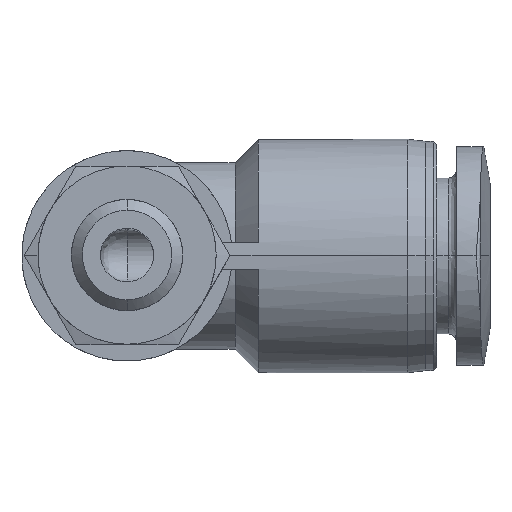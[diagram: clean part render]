
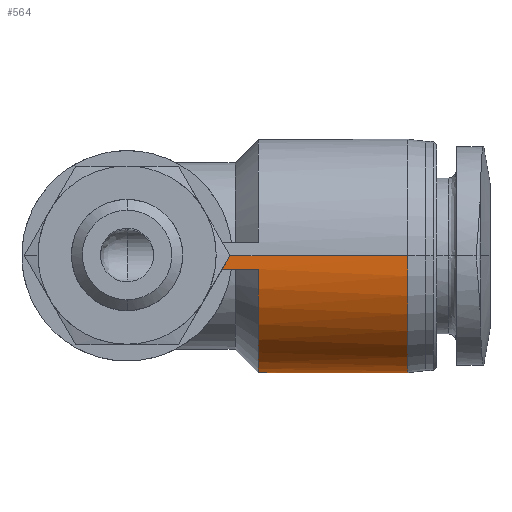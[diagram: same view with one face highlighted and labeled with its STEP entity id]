
A CAD part, top view. The second image highlights one B-rep face of the part: STEP entity #564.
In plain terms, the highlighted cylindrical face has radius 5.25 mm (diameter 10.5 mm), a partial arc.
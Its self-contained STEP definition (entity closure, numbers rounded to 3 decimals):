
#106 = CARTESIAN_POINT ( 'NONE',  ( 0.364, -0.182, -5.25 ) ) ;
#127 = CARTESIAN_POINT ( 'NONE',  ( 4.619, 0., 5.25 ) ) ;
#204 = DIRECTION ( 'NONE',  ( 0., 0., 1. ) ) ;
#227 = DIRECTION ( 'NONE',  ( 0., 0., 1. ) ) ;
#243 = VERTEX_POINT ( 'NONE', #127 ) ;
#261 = EDGE_LOOP ( 'NONE', ( #2526, #934, #1851, #2740, #1840, #923, #2716, #318, #1660 ) ) ;
#318 = ORIENTED_EDGE ( 'NONE', *, *, #757, .T. ) ;
#352 = CARTESIAN_POINT ( 'NONE',  ( 4.388, -0.401, 5.239 ) ) ;
#357 = DIRECTION ( 'NONE',  ( 1., 0., 0. ) ) ;
#384 = AXIS2_PLACEMENT_3D ( 'NONE', #2491, #883, #1954 ) ;
#493 = VECTOR ( 'NONE', #3073, 1000. ) ;
#523 = DIRECTION ( 'NONE',  ( 0., 0., 1. ) ) ;
#549 = VECTOR ( 'NONE', #357, 1000. ) ;
#564 = ADVANCED_FACE ( 'NONE', ( #2453 ), #1641, .T. ) ;
#599 = CARTESIAN_POINT ( 'NONE',  ( 0.181, -0.364, -5.24 ) ) ;
#623 = CIRCLE ( 'NONE', #384, 5.25 ) ;
#697 = CARTESIAN_POINT ( 'NONE',  ( 16.3, 0., 5.25 ) ) ;
#757 = EDGE_CURVE ( 'NONE', #2125, #1880, #623, .T. ) ;
#760 = B_SPLINE_CURVE_WITH_KNOTS ( 'NONE', 3,
 ( #2777, #890, #352, #1718 ),
 .UNSPECIFIED., .F., .F.,
 ( 4, 4 ),
 ( 0., 1. ),
 .UNSPECIFIED. ) ;
#766 = CARTESIAN_POINT ( 'NONE',  ( 0.546, 0., -5.25 ) ) ;
#883 = DIRECTION ( 'NONE',  ( 1., 0., 0. ) ) ;
#890 = CARTESIAN_POINT ( 'NONE',  ( 4.503, -0.2, 5.25 ) ) ;
#892 = CIRCLE ( 'NONE', #2868, 5.25 ) ;
#908 = EDGE_CURVE ( 'NONE', #1885, #2065, #1134, .T. ) ;
#923 = ORIENTED_EDGE ( 'NONE', *, *, #2902, .T. ) ;
#934 = ORIENTED_EDGE ( 'NONE', *, *, #908, .T. ) ;
#981 = CARTESIAN_POINT ( 'NONE',  ( 12.6, 0., -5.25 ) ) ;
#1134 = CIRCLE ( 'NONE', #2484, 5.25 ) ;
#1143 = CARTESIAN_POINT ( 'NONE',  ( 0., -0.6, -5.216 ) ) ;
#1194 = DIRECTION ( 'NONE',  ( -1., 0., 0. ) ) ;
#1299 = CARTESIAN_POINT ( 'NONE',  ( 5.9, 0., 0. ) ) ;
#1343 = VERTEX_POINT ( 'NONE', #1963 ) ;
#1492 = B_SPLINE_CURVE_WITH_KNOTS ( 'NONE', 3,
 ( #3028, #106, #599, #2757 ),
 .UNSPECIFIED., .F., .F.,
 ( 4, 4 ),
 ( 0., 1. ),
 .UNSPECIFIED. ) ;
#1502 = VERTEX_POINT ( 'NONE', #2524 ) ;
#1513 = EDGE_CURVE ( 'NONE', #2679, #1880, #1492, .T. ) ;
#1641 = CYLINDRICAL_SURFACE ( 'NONE', #2699, 5.25 ) ;
#1660 = ORIENTED_EDGE ( 'NONE', *, *, #1513, .F. ) ;
#1675 = VECTOR ( 'NONE', #2872, 1000. ) ;
#1718 = CARTESIAN_POINT ( 'NONE',  ( 4.272, -0.6, 5.216 ) ) ;
#1840 = ORIENTED_EDGE ( 'NONE', *, *, #2046, .T. ) ;
#1851 = ORIENTED_EDGE ( 'NONE', *, *, #2156, .T. ) ;
#1880 = VERTEX_POINT ( 'NONE', #2553 ) ;
#1885 = VERTEX_POINT ( 'NONE', #981 ) ;
#1954 = DIRECTION ( 'NONE',  ( 0., 0., 1. ) ) ;
#1963 = CARTESIAN_POINT ( 'NONE',  ( 5.9, -0.6, 5.216 ) ) ;
#1978 = CARTESIAN_POINT ( 'NONE',  ( 16.3, 0., -5.25 ) ) ;
#2046 = EDGE_CURVE ( 'NONE', #1502, #1343, #2500, .T. ) ;
#2065 = VERTEX_POINT ( 'NONE', #2727 ) ;
#2125 = VERTEX_POINT ( 'NONE', #1143 ) ;
#2156 = EDGE_CURVE ( 'NONE', #2065, #243, #3351, .T. ) ;
#2252 = VERTEX_POINT ( 'NONE', #2389 ) ;
#2282 = LINE ( 'NONE', #2549, #3325 ) ;
#2389 = CARTESIAN_POINT ( 'NONE',  ( 5.9, -0.6, -5.216 ) ) ;
#2441 = EDGE_CURVE ( 'NONE', #243, #1502, #760, .T. ) ;
#2453 = FACE_OUTER_BOUND ( 'NONE', #261, .T. ) ;
#2484 = AXIS2_PLACEMENT_3D ( 'NONE', #2952, #2662, #523 ) ;
#2491 = CARTESIAN_POINT ( 'NONE',  ( 0., 0., 0. ) ) ;
#2500 = LINE ( 'NONE', #2782, #549 ) ;
#2524 = CARTESIAN_POINT ( 'NONE',  ( 4.272, -0.6, 5.216 ) ) ;
#2526 = ORIENTED_EDGE ( 'NONE', *, *, #3160, .F. ) ;
#2549 = CARTESIAN_POINT ( 'NONE',  ( 16.3, -0.6, -5.216 ) ) ;
#2553 = CARTESIAN_POINT ( 'NONE',  ( 0., -0.546, -5.222 ) ) ;
#2587 = DIRECTION ( 'NONE',  ( 1., 0., 0. ) ) ;
#2662 = DIRECTION ( 'NONE',  ( -1., 0., 0. ) ) ;
#2679 = VERTEX_POINT ( 'NONE', #766 ) ;
#2699 = AXIS2_PLACEMENT_3D ( 'NONE', #3480, #2717, #227 ) ;
#2716 = ORIENTED_EDGE ( 'NONE', *, *, #3479, .T. ) ;
#2717 = DIRECTION ( 'NONE',  ( -1., 0., 0. ) ) ;
#2727 = CARTESIAN_POINT ( 'NONE',  ( 12.6, 0., 5.25 ) ) ;
#2740 = ORIENTED_EDGE ( 'NONE', *, *, #2441, .T. ) ;
#2757 = CARTESIAN_POINT ( 'NONE',  ( 0., -0.546, -5.222 ) ) ;
#2777 = CARTESIAN_POINT ( 'NONE',  ( 4.619, 0., 5.25 ) ) ;
#2782 = CARTESIAN_POINT ( 'NONE',  ( 16.3, -0.6, 5.216 ) ) ;
#2868 = AXIS2_PLACEMENT_3D ( 'NONE', #1299, #2587, #204 ) ;
#2872 = DIRECTION ( 'NONE',  ( -1., 0., 0. ) ) ;
#2902 = EDGE_CURVE ( 'NONE', #1343, #2252, #892, .T. ) ;
#2952 = CARTESIAN_POINT ( 'NONE',  ( 12.6, 0., 0. ) ) ;
#3028 = CARTESIAN_POINT ( 'NONE',  ( 0.546, 0., -5.25 ) ) ;
#3073 = DIRECTION ( 'NONE',  ( -1., 0., 0. ) ) ;
#3160 = EDGE_CURVE ( 'NONE', #1885, #2679, #3338, .T. ) ;
#3325 = VECTOR ( 'NONE', #1194, 1000. ) ;
#3338 = LINE ( 'NONE', #1978, #493 ) ;
#3351 = LINE ( 'NONE', #697, #1675 ) ;
#3479 = EDGE_CURVE ( 'NONE', #2252, #2125, #2282, .T. ) ;
#3480 = CARTESIAN_POINT ( 'NONE',  ( 16.3, 0., 0. ) ) ;
